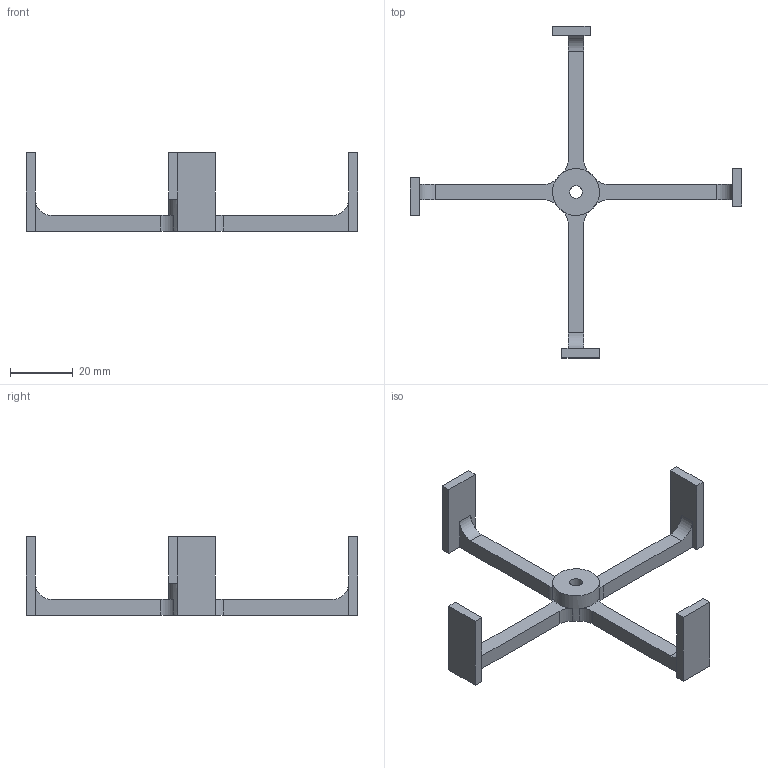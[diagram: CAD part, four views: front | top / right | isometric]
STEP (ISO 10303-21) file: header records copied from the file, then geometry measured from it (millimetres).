
FILE_DESCRIPTION((''),'1');
FILE_NAME('C:\Users\AcmeCo\Desktop\set\env.stp','2019-03-16T20:09:05',(''),(''),'Spatial Interop R18','Kubotek KeyCreator V7.5.2 (9124)',' ');
FILE_SCHEMA(('CONFIG_CONTROL_DESIGN'));
Length unit declared in the file: millimetre
Bounding box: 106 x 106 x 25 mm (x, y, z)
Volume: 9661.2 mm3; surface area: 7430.6 mm2
Topology: 1 solids, 1 shells, 48 faces, 137 edges, 91 vertices
Faces by surface type: plane 34, cylinder 14
Full cylindrical faces by diameter (mm): 4 x1, 15 x1
Entity records: 1606 total; most frequent: CARTESIAN_POINT 275, ORIENTED_EDGE 270, DIRECTION 268, EDGE_CURVE 135, LINE 100, VECTOR 100, VERTEX_POINT 91, AXIS2_PLACEMENT_3D 84
